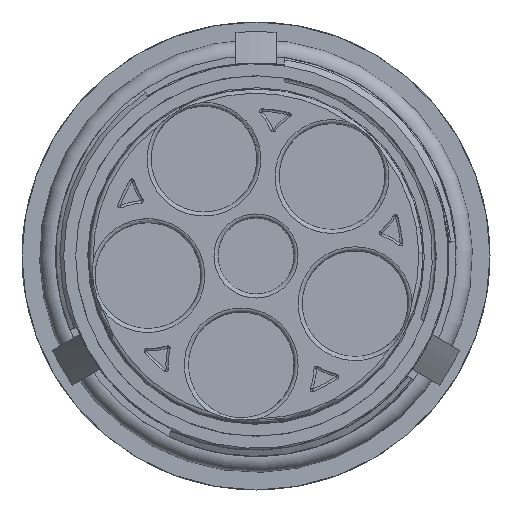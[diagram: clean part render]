
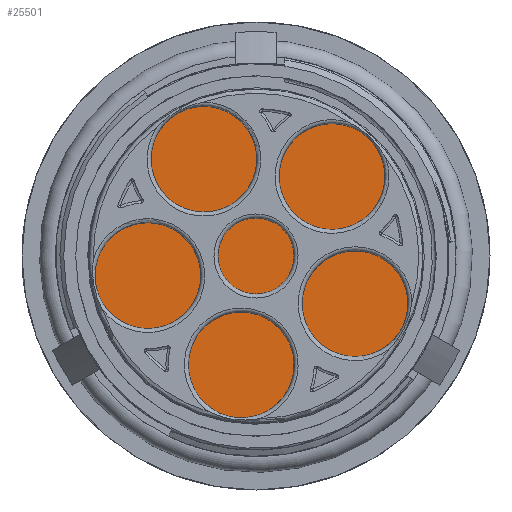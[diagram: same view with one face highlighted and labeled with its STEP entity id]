
A CAD part, front view. The second image highlights one B-rep face of the part: STEP entity #25501.
In plain terms, the highlighted planar face has unit normal (0, -1, 0).
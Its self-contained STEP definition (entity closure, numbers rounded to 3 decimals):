
#5358=PLANE('',#27826);
#5780=FACE_BOUND('',#8181,.T.);
#5781=FACE_BOUND('',#8182,.T.);
#6579=FACE_OUTER_BOUND('',#8180,.T.);
#8180=EDGE_LOOP('',(#20377));
#8181=EDGE_LOOP('',(#20378));
#8182=EDGE_LOOP('',(#20379));
#9953=CIRCLE('',#27817,1.9);
#9955=CIRCLE('',#27820,2.4);
#9958=CIRCLE('',#27824,23.);
#11624=VERTEX_POINT('',#45805);
#11626=VERTEX_POINT('',#45810);
#11629=VERTEX_POINT('',#45817);
#14759=EDGE_CURVE('',#11624,#11624,#9953,.T.);
#14761=EDGE_CURVE('',#11626,#11626,#9955,.T.);
#14764=EDGE_CURVE('',#11629,#11629,#9958,.T.);
#20377=ORIENTED_EDGE('',*,*,#14764,.F.);
#20378=ORIENTED_EDGE('',*,*,#14759,.T.);
#20379=ORIENTED_EDGE('',*,*,#14761,.T.);
#25501=ADVANCED_FACE('',(#6579,#5780,#5781),#5358,.T.);
#27817=AXIS2_PLACEMENT_3D('',#45806,#32089,#32090);
#27820=AXIS2_PLACEMENT_3D('',#45811,#32095,#32096);
#27824=AXIS2_PLACEMENT_3D('',#45818,#32103,#32104);
#27826=AXIS2_PLACEMENT_3D('',#45820,#32107,#32108);
#32089=DIRECTION('center_axis',(0.,1.,0.));
#32090=DIRECTION('ref_axis',(-1.,0.,0.));
#32095=DIRECTION('center_axis',(0.,1.,0.));
#32096=DIRECTION('ref_axis',(-1.,0.,0.));
#32103=DIRECTION('center_axis',(0.,1.,0.));
#32104=DIRECTION('ref_axis',(-1.,0.,0.));
#32107=DIRECTION('center_axis',(0.,-1.,0.));
#32108=DIRECTION('ref_axis',(0.,0.,-1.));
#45805=CARTESIAN_POINT('',(-7.046,-1.2,16.624));
#45806=CARTESIAN_POINT('Origin',(-8.946,-1.2,16.624));
#45810=CARTESIAN_POINT('',(-16.175,-1.2,-3.371));
#45811=CARTESIAN_POINT('Origin',(-18.575,-1.2,-3.371));
#45817=CARTESIAN_POINT('',(-23.,-1.2,0.));
#45818=CARTESIAN_POINT('Origin',(0.,-1.2,0.));
#45820=CARTESIAN_POINT('Origin',(-11.5,-1.2,0.));
